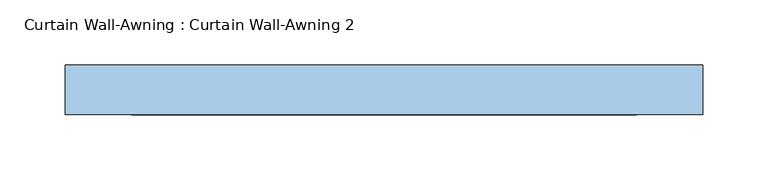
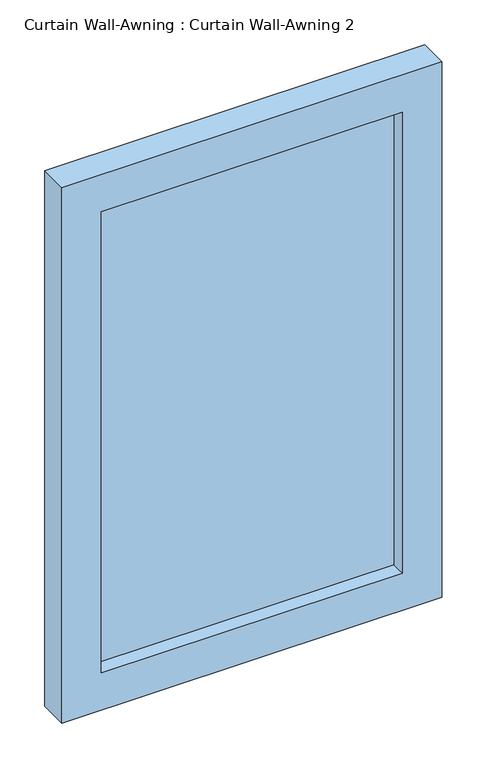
"""IFC4 building model written with IfcOpenShell, lengths in millimetres: window geometry, Curtain Wall-Awning : Curtain Wall-Awning 2."""

from ifc_helpers import new_model, si_unit, frame, origin, place, context, project, spatial, polyline, outline, extrude, source, transform, mapped, element, save


def curtain_wall_awning_curtain_wall_awning_2_a3e4abaf(model_context):
    return source(origin(), model_context, "Body", "SweptSolid", [
        extrude(outline(polyline([(193.5236095, -19.05), (-193.5236095, -19.05), (-193.5236095, -6.35), (193.5236095, -6.35), (193.5236095, -19.05)])), frame((0.0, 0.0, 50.8), z_axis=(0.0, 0.0, 1.0), x_axis=(1.0, 0.0, 0.0)), (0.0, 0.0, 1.0), 626.7580049),
        extrude(outline(polyline([(728.3580049, -244.3236095), (0.0, -244.3236095), (0.0, 244.3236095), (728.3580049, 244.3236095), (728.3580049, -244.3236095)]), holes=[polyline([(677.5580049, -193.5236095), (677.5580049, 193.5236095), (50.8, 193.5236095), (50.8, -193.5236095), (677.5580049, -193.5236095)])]), frame((0.0, -38.1, 0.0), z_axis=(0.0, 1.0, 0.0), x_axis=(0.0, 0.0, 1.0)), (0.0, 0.0, 1.0), 38.1),
    ])


if __name__ == "__main__":
    model = new_model("IFC4")
    model_context = context("Model", 3, world=origin())
    ifc_project = project(units=[si_unit("LENGTHUNIT", "METRE", prefix="MILLI")], contexts=[model_context])
    site = spatial("IfcSite", under=ifc_project)
    building = spatial("IfcBuilding", under=site)
    placement = place(None, origin())
    curtain_wall_awning_curtain_wall_awning_2_shape = curtain_wall_awning_curtain_wall_awning_2_a3e4abaf(model_context)
    element("IfcWindow", 1, ObjectType="Curtain Wall-Awning : Curtain Wall-Awning 2", at=placement, inside=building, context=model_context, shape_type="MappedRepresentation", body=[
        mapped(curtain_wall_awning_curtain_wall_awning_2_shape, transform((0.0, 0.0, 0.0), x_axis=(1.0, 0.0, 0.0), y_axis=(0.0, 1.0, 0.0), z_axis=(0.0, 0.0, 1.0))),
    ])
    save(model, "model.ifc")
